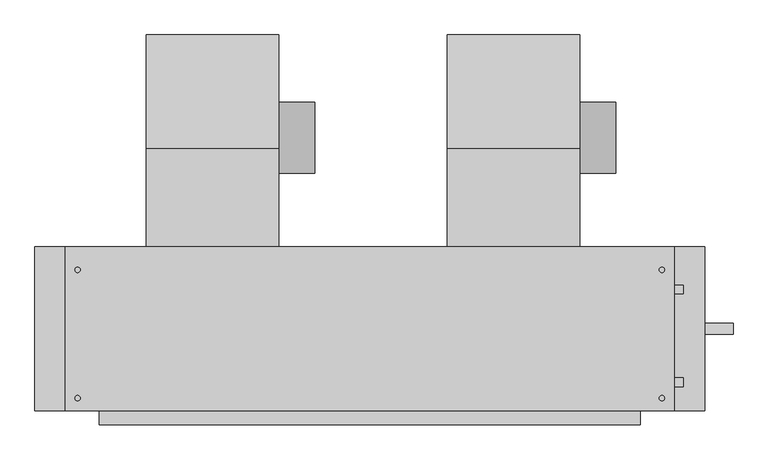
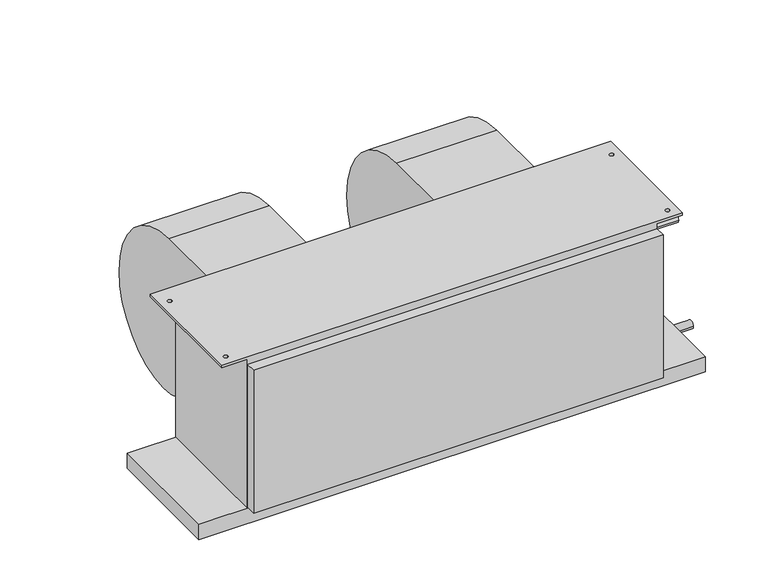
"""IFC4 building model written with IfcOpenShell, lengths in millimetres: proxy geometry, Concealed_High_Capacity_Horizontal_Fan_Coil_Unit_-_42DAA_-_CARRIER_-_2-Pipe_RH_2022 : Size 16 - 277v/60Hz/1Ph - 6 Row 12.0kW."""

from ifc_helpers import new_model, si_unit, point, frame, frame_2d, origin, place, context, project, spatial, polyline, circle_curve, trimmed, segment, composite_curve, outline, extrude, source, transform, mapped, element, save
from ifc_brep_helpers import plane_surface, cylinder_surface, revolved_surface, advanced_brep


def mechanical_equipment_f2d7e844(model_context):
    return source(origin(), model_context, "Body", "SolidModel", [
        extrude(outline(composite_curve([segment(trimmed(circle_curve(frame_2d((102.0007598, -206.8897468)), 63.5), [point((165.5007598, -206.8897468))], [point((38.5007598, -206.8897468))], False, "CARTESIAN"), True, "CONTINUOUS"), segment(trimmed(circle_curve(frame_2d((102.0007598, -206.8897468)), 63.5), [point((38.5007598, -206.8897468))], [point((165.5007598, -206.8897468))], False, "CARTESIAN"), True, "CONTINUOUS")], self_intersect=False)), frame((-9.525, 0.0, 0.0), z_axis=(1.0, 0.0, 0.0), x_axis=(0.0, 1.0, 0.0)), (0.0, 0.0, 1.0), 63.5),
        advanced_brep(
        [(-245.999, 285.5155957, -222.029602), (-245.999, 104.6226, -403.64664), (-245.999, -50.9016, -277.10638), (-245.999, -92.075, -277.10638), (-245.999, -92.075, -19.05), (-245.999, 83.0080093, -19.05), (-9.525, 285.5155957, -222.029602), (-9.525, 83.0080093, -19.05), (-9.525, -92.075, -19.05), (-9.525, -92.075, -277.10638), (-9.525, -50.9016, -277.10638), (-9.525, 104.622599, -403.6457839)],
        [
            (0, 1, circle_curve(frame((-245.999, 104.44226, -222.57258), z_axis=(-1.0, 0.0, 0.0), x_axis=(0.0, -1.0, 0.0)), 181.0741498)),
            (1, 2, circle_curve(frame((-245.999, 104.44226, -245.02364), z_axis=(-1.0, 0.0, 0.0), x_axis=(0.0, -1.0, 0.0)), 158.6222464)),
            (2, 3),
            (3, 4),
            (4, 5),
            (5, 0, circle_curve(frame((-245.999, 81.9912, -222.57258), z_axis=(-1.0, 0.0, 0.0), x_axis=(0.0, -1.0, 0.0)), 203.52512)),
            (6, 7, circle_curve(frame((-9.525, 81.9912, -222.57258), z_axis=(1.0, 0.0, 0.0), x_axis=(0.0, -1.0, 0.0)), 203.52512)),
            (7, 8),
            (8, 9),
            (9, 10),
            (10, 11, circle_curve(frame((-9.525, 104.44226, -245.02364), z_axis=(1.0, 0.0, 0.0), x_axis=(0.0, -1.0, 0.0)), 158.6222464)),
            (11, 6, circle_curve(frame((-9.525, 104.44226, -222.57258), z_axis=(1.0, 0.0, 0.0), x_axis=(0.0, -1.0, 0.0)), 181.0741498)),
            (0, 6),
            (11, 1),
            (10, 2),
            (9, 3),
            (8, 4),
            (7, 5),
        ],
        [
            plane_surface(frame((-245.999, -76.6318898, -222.57258), z_axis=(-1.0, 0.0, 0.0), x_axis=(0.0, 0.0, 1.0))),
            plane_surface(frame((-9.525, -76.6318898, -222.57258), z_axis=(1.0, 0.0, 0.0), x_axis=(0.0, 0.0, -1.0))),
            cylinder_surface(frame((-9.525, 104.44226, -222.57258), z_axis=(-1.0, 0.0, 0.0), x_axis=(0.0, -1.0, 0.0)), 181.0741498),
            cylinder_surface(frame((-9.525, 104.44226, -245.02364), z_axis=(-1.0, 0.0, 0.0), x_axis=(0.0, -1.0, 0.0)), 158.6222464),
            plane_surface(frame((-245.999, -50.9016, -277.10638), z_axis=(0.0, 0.0, -1.0), x_axis=(1.0, 0.0, 0.0))),
            plane_surface(frame((-245.999, -92.075, -277.10638), z_axis=(0.0, -1.0, 0.0), x_axis=(1.0, 0.0, 0.0))),
            plane_surface(frame((-245.999, -92.075, -19.05), z_axis=(0.0, 0.0, 1.0), x_axis=(1.0, 0.0, 0.0))),
            cylinder_surface(frame((-9.525, 81.9912, -222.57258), z_axis=(-1.0, 0.0, 0.0), x_axis=(0.0, -1.0, 0.0)), 203.52512),
        ],
        [
            (0, [[1, 2, 3, 4, 5, 6]]),
            (1, [[7, 8, 9, 10, 11, 12]]),
            (2, [[-1, 13, -12, 14]]),
            (3, [[-2, -14, -11, 15]]),
            (4, [[-3, -15, -10, 16]]),
            (5, [[-4, -16, -9, 17]]),
            (6, [[-5, -17, -8, 18]]),
            (7, [[-6, -18, -7, -13]]),
        ],
    ),
        extrude(outline(composite_curve([segment(trimmed(circle_curve(frame_2d((102.0007598, -206.8897468)), 63.5), [point((165.5007598, -206.8897468))], [point((38.5007598, -206.8897468))], False, "CARTESIAN"), True, "CONTINUOUS"), segment(trimmed(circle_curve(frame_2d((102.0007598, -206.8897468)), 63.5), [point((38.5007598, -206.8897468))], [point((165.5007598, -206.8897468))], False, "CARTESIAN"), True, "CONTINUOUS")], self_intersect=False)), frame((527.05, 0.0, 0.0), z_axis=(1.0, 0.0, 0.0), x_axis=(0.0, 1.0, 0.0)), (0.0, 0.0, 1.0), 63.5),
        advanced_brep(
        [(290.576, 285.5155957, -222.029602), (290.576, 104.6226, -403.64664), (290.576, -50.9016, -277.10638), (290.576, -92.075, -277.10638), (290.576, -92.075, -19.05), (290.576, 83.0080093, -19.05), (527.05, 285.5155957, -222.029602), (527.05, 83.0080093, -19.05), (527.05, -92.075, -19.05), (527.05, -92.075, -277.10638), (527.05, -50.9016, -277.10638), (527.05, 104.622599, -403.6457839)],
        [
            (0, 1, circle_curve(frame((290.576, 104.44226, -222.57258), z_axis=(-1.0, 0.0, 0.0), x_axis=(0.0, -1.0, 0.0)), 181.0741498)),
            (1, 2, circle_curve(frame((290.576, 104.44226, -245.02364), z_axis=(-1.0, 0.0, 0.0), x_axis=(0.0, -1.0, 0.0)), 158.6222464)),
            (2, 3),
            (3, 4),
            (4, 5),
            (5, 0, circle_curve(frame((290.576, 81.9912, -222.57258), z_axis=(-1.0, 0.0, 0.0), x_axis=(0.0, -1.0, 0.0)), 203.52512)),
            (6, 7, circle_curve(frame((527.05, 81.9912, -222.57258), z_axis=(1.0, 0.0, 0.0), x_axis=(0.0, -1.0, 0.0)), 203.52512)),
            (7, 8),
            (8, 9),
            (9, 10),
            (10, 11, circle_curve(frame((527.05, 104.44226, -245.02364), z_axis=(1.0, 0.0, 0.0), x_axis=(0.0, -1.0, 0.0)), 158.6222464)),
            (11, 6, circle_curve(frame((527.05, 104.44226, -222.57258), z_axis=(1.0, 0.0, 0.0), x_axis=(0.0, -1.0, 0.0)), 181.0741498)),
            (0, 6),
            (11, 1),
            (10, 2),
            (9, 3),
            (8, 4),
            (7, 5),
        ],
        [
            plane_surface(frame((290.576, -76.6318898, -222.57258), z_axis=(-1.0, 0.0, 0.0), x_axis=(0.0, 0.0, 1.0))),
            plane_surface(frame((527.05, -76.6318898, -222.57258), z_axis=(1.0, 0.0, 0.0), x_axis=(0.0, 0.0, -1.0))),
            cylinder_surface(frame((527.05, 104.44226, -222.57258), z_axis=(-1.0, 0.0, 0.0), x_axis=(0.0, -1.0, 0.0)), 181.0741498),
            cylinder_surface(frame((527.05, 104.44226, -245.02364), z_axis=(-1.0, 0.0, 0.0), x_axis=(0.0, -1.0, 0.0)), 158.6222464),
            plane_surface(frame((290.576, -50.9016, -277.10638), z_axis=(0.0, 0.0, -1.0), x_axis=(1.0, 0.0, 0.0))),
            plane_surface(frame((290.576, -92.075, -277.10638), z_axis=(0.0, -1.0, 0.0), x_axis=(1.0, 0.0, 0.0))),
            plane_surface(frame((290.576, -92.075, -19.05), z_axis=(0.0, 0.0, 1.0), x_axis=(1.0, 0.0, 0.0))),
            cylinder_surface(frame((527.05, 81.9912, -222.57258), z_axis=(-1.0, 0.0, 0.0), x_axis=(0.0, -1.0, 0.0)), 203.52512),
        ],
        [
            (0, [[1, 2, 3, 4, 5, 6]]),
            (1, [[7, 8, 9, 10, 11, 12]]),
            (2, [[-1, 13, -12, 14]]),
            (3, [[-2, -14, -11, 15]]),
            (4, [[-3, -15, -10, 16]]),
            (5, [[-4, -16, -9, 17]]),
            (6, [[-5, -17, -8, 18]]),
            (7, [[-6, -18, -7, -13]]),
        ],
    ),
        advanced_brep(
        [(695.325, -92.075, -6.35), (695.325, -384.175, -6.35), (635.0, -384.175, -6.35), (635.0, -92.075, -6.35), (668.3375, -133.35, -6.35), (677.8625, -133.35, -6.35), (668.3375, -361.95, -6.35), (677.8625, -361.95, -6.35), (-390.525, -92.075, -6.35), (-330.2, -92.075, -6.35), (-330.2, -384.175, -6.35), (-390.525, -384.175, -6.35), (-373.0625, -133.35, -6.35), (-363.5375, -133.35, -6.35), (-373.0625, -361.95, -6.35), (-363.5375, -361.95, -6.35), (695.325, -384.175, 0.0), (695.325, -92.075, 0.0), (-390.525, -92.075, 0.0), (-390.525, -384.175, 0.0), (-363.5375, -133.35, 0.0), (-373.0625, -133.35, 0.0), (-363.5375, -361.95, 0.0), (-373.0625, -361.95, 0.0), (677.8625, -133.35, 0.0), (668.3375, -133.35, 0.0), (677.8625, -361.95, 0.0), (668.3375, -361.95, 0.0), (635.0, -92.075, -377.825), (-330.2, -92.075, -377.825), (-330.2, -384.175, -377.825), (635.0, -384.175, -377.825)],
        [
            (0, 1),
            (1, 2),
            (2, 3),
            (3, 0),
            (4, 5, circle_curve(frame((673.1, -133.35, -6.35), z_axis=(0.0, 0.0, 1.0), x_axis=(1.0, 0.0, 0.0)), 4.7625)),
            (5, 4, circle_curve(frame((673.1, -133.35, -6.35), z_axis=(0.0, 0.0, 1.0), x_axis=(1.0, 0.0, 0.0)), 4.7625)),
            (6, 7, circle_curve(frame((673.1, -361.95, -6.35), z_axis=(0.0, 0.0, 1.0), x_axis=(1.0, 0.0, 0.0)), 4.7625)),
            (7, 6, circle_curve(frame((673.1, -361.95, -6.35), z_axis=(0.0, 0.0, 1.0), x_axis=(1.0, 0.0, 0.0)), 4.7625)),
            (8, 9),
            (9, 10),
            (10, 11),
            (11, 8),
            (12, 13, circle_curve(frame((-368.3, -133.35, -6.35), z_axis=(0.0, 0.0, 1.0), x_axis=(1.0, 0.0, 0.0)), 4.7625)),
            (13, 12, circle_curve(frame((-368.3, -133.35, -6.35), z_axis=(0.0, 0.0, 1.0), x_axis=(1.0, 0.0, 0.0)), 4.7625)),
            (14, 15, circle_curve(frame((-368.3, -361.95, -6.35), z_axis=(0.0, 0.0, 1.0), x_axis=(1.0, 0.0, 0.0)), 4.7625)),
            (15, 14, circle_curve(frame((-368.3, -361.95, -6.35), z_axis=(0.0, 0.0, 1.0), x_axis=(1.0, 0.0, 0.0)), 4.7625)),
            (16, 17),
            (17, 18),
            (18, 19),
            (19, 16),
            (20, 21, circle_curve(frame((-368.3, -133.35, 0.0), z_axis=(0.0, 0.0, -1.0), x_axis=(1.0, 0.0, 0.0)), 4.7625)),
            (21, 20, circle_curve(frame((-368.3, -133.35, 0.0), z_axis=(0.0, 0.0, -1.0), x_axis=(1.0, 0.0, 0.0)), 4.7625)),
            (22, 23, circle_curve(frame((-368.3, -361.95, 0.0), z_axis=(0.0, 0.0, -1.0), x_axis=(1.0, 0.0, 0.0)), 4.7625)),
            (23, 22, circle_curve(frame((-368.3, -361.95, 0.0), z_axis=(0.0, 0.0, -1.0), x_axis=(1.0, 0.0, 0.0)), 4.7625)),
            (24, 25, circle_curve(frame((673.1, -133.35, 0.0), z_axis=(0.0, 0.0, -1.0), x_axis=(1.0, 0.0, 0.0)), 4.7625)),
            (25, 24, circle_curve(frame((673.1, -133.35, 0.0), z_axis=(0.0, 0.0, -1.0), x_axis=(1.0, 0.0, 0.0)), 4.7625)),
            (26, 27, circle_curve(frame((673.1, -361.95, 0.0), z_axis=(0.0, 0.0, -1.0), x_axis=(1.0, 0.0, 0.0)), 4.7625)),
            (27, 26, circle_curve(frame((673.1, -361.95, 0.0), z_axis=(0.0, 0.0, -1.0), x_axis=(1.0, 0.0, 0.0)), 4.7625)),
            (3, 28),
            (28, 29),
            (29, 9),
            (8, 18),
            (17, 0),
            (1, 16),
            (19, 11),
            (10, 30),
            (30, 31),
            (31, 2),
            (28, 31),
            (30, 29),
            (20, 13),
            (12, 21),
            (22, 15),
            (14, 23),
            (24, 5),
            (4, 25),
            (26, 7),
            (6, 27),
        ],
        [
            plane_surface(frame((635.0, -92.075, -6.35), z_axis=(0.0, 0.0, -1.0), x_axis=(1.0, 0.0, 0.0))),
            plane_surface(frame((635.0, -92.075, 0.0), z_axis=(0.0, 0.0, 1.0), x_axis=(-1.0, 0.0, 0.0))),
            plane_surface(frame((695.325, -92.075, 0.0), z_axis=(0.0, 1.0, 0.0), x_axis=(0.0, 0.0, -1.0))),
            plane_surface(frame((635.0, -384.175, 0.0), z_axis=(0.0, -1.0, 0.0), x_axis=(0.0, 0.0, -1.0))),
            plane_surface(frame((695.325, -384.175, 0.0), z_axis=(1.0, 0.0, 0.0), x_axis=(0.0, 0.0, -1.0))),
            plane_surface(frame((-390.525, -92.075, 0.0), z_axis=(-1.0, 0.0, 0.0), x_axis=(0.0, 0.0, -1.0))),
            plane_surface(frame((-330.2, -92.075, -377.825), z_axis=(0.0, 0.0, -1.0), x_axis=(1.0, 0.0, 0.0))),
            plane_surface(frame((-330.2, -92.075, 0.0), z_axis=(-1.0, 0.0, 0.0), x_axis=(0.0, 0.0, -1.0))),
            plane_surface(frame((635.0, -384.175, 0.0), z_axis=(1.0, 0.0, 0.0), x_axis=(0.0, 0.0, -1.0))),
            revolved_surface(polyline([(-363.5375, -133.35, 0.0), (-363.5375, -133.35, -6.35)]), (-368.3, -133.35, -6.35), (0.0, 0.0, 1.0)),
            revolved_surface(polyline([(-363.5375, -361.95, 0.0), (-363.5375, -361.95, -6.35)]), (-368.3, -361.95, 0.0), (0.0, 0.0, 1.0)),
            revolved_surface(polyline([(677.8625000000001, -133.35, 0.0), (677.8625000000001, -133.35, -6.35)]), (673.1, -133.35, 0.0), (0.0, 0.0, 1.0)),
            revolved_surface(polyline([(677.8625000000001, -361.95, 0.0), (677.8625000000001, -361.95, -6.35)]), (673.1, -361.95, 0.0), (0.0, 0.0, 1.0)),
        ],
        [
            (0, [[1, 2, 3, 4], [5, 6], [7, 8]]),
            (0, [[9, 10, 11, 12], [13, 14], [15, 16]]),
            (1, [[17, 18, 19, 20], [21, 22], [23, 24], [25, 26], [27, 28]]),
            (2, [[-4, 29, 30, 31, -9, 32, -18, 33]]),
            (3, [[-2, 34, -20, 35, -11, 36, 37, 38]]),
            (4, [[-1, -33, -17, -34]]),
            (5, [[-12, -35, -19, -32]]),
            (6, [[39, -37, 40, -30]]),
            (7, [[-40, -36, -10, -31]]),
            (8, [[-39, -29, -3, -38]]),
            (9, [[41, -13, 42, -21]]),
            (9, [[-41, -22, -42, -14]]),
            (10, [[43, -15, 44, -23]]),
            (10, [[-43, -24, -44, -16]]),
            (11, [[45, -5, 46, -25]]),
            (11, [[-45, -26, -46, -6]]),
            (12, [[47, -7, 48, -27]]),
            (12, [[-47, -28, -48, -8]]),
        ],
    ),
        extrude(outline(composite_curve([segment(trimmed(circle_curve(frame_2d((-238.125, -403.225)), 9.525), [point((-228.6, -403.225))], [point((-247.65, -403.225))], False, "CARTESIAN"), True, "CONTINUOUS"), segment(trimmed(circle_curve(frame_2d((-238.125, -403.225)), 9.525), [point((-247.65, -403.225))], [point((-228.6, -403.225))], False, "CARTESIAN"), True, "CONTINUOUS")], self_intersect=False)), frame((749.3, 0.0, 0.0), z_axis=(1.0, 0.0, 0.0), x_axis=(0.0, 1.0, 0.0)), (0.0, 0.0, 1.0), 50.8),
        extrude(outline(composite_curve([segment(trimmed(circle_curve(frame_2d((-333.375, -50.8)), 7.9375), [point((-325.4375, -50.8))], [point((-341.3125, -50.8))], False, "CARTESIAN"), True, "CONTINUOUS"), segment(trimmed(circle_curve(frame_2d((-333.375, -50.8)), 7.9375), [point((-341.3125, -50.8))], [point((-325.4375, -50.8))], False, "CARTESIAN"), True, "CONTINUOUS")], self_intersect=False)), frame((635.0, 0.0, 0.0), z_axis=(1.0, 0.0, 0.0), x_axis=(0.0, 1.0, 0.0)), (0.0, 0.0, 1.0), 76.2),
        extrude(outline(composite_curve([segment(trimmed(circle_curve(frame_2d((-168.275, -327.025)), 7.9375), [point((-160.3375, -327.025))], [point((-176.2125, -327.025))], False, "CARTESIAN"), True, "CONTINUOUS"), segment(trimmed(circle_curve(frame_2d((-168.275, -327.025)), 7.9375), [point((-176.2125, -327.025))], [point((-160.3375, -327.025))], False, "CARTESIAN"), True, "CONTINUOUS")], self_intersect=False)), frame((635.0, 0.0, 0.0), z_axis=(1.0, 0.0, 0.0), x_axis=(0.0, 1.0, 0.0)), (0.0, 0.0, 1.0), 76.2),
        extrude(outline(polyline([(635.0, -409.575), (-330.2, -409.575), (-330.2, -384.175), (635.0, -384.175), (635.0, -409.575)])), frame((0.0, 0.0, -374.65), z_axis=(0.0, 0.0, 1.0), x_axis=(1.0, 0.0, 0.0)), (0.0, 0.0, 1.0), 355.6),
        extrude(outline(polyline([(749.3, -92.075), (749.3, -384.175), (-444.5, -384.175), (-444.5, -92.075), (749.3, -92.075)])), frame((0.0, 0.0, -415.925), z_axis=(0.0, 0.0, 1.0), x_axis=(1.0, 0.0, 0.0)), (0.0, 0.0, 1.0), 38.1),
    ])


if __name__ == "__main__":
    model = new_model("IFC4")
    model_context = context("Model", 3, world=origin())
    ifc_project = project(units=[si_unit("LENGTHUNIT", "METRE", prefix="MILLI")], contexts=[model_context])
    site = spatial("IfcSite", under=ifc_project)
    building = spatial("IfcBuilding", under=site)
    placement = place(None, origin())
    mechanical_equipment_shape = mechanical_equipment_f2d7e844(model_context)
    element("IfcBuildingElementProxy", 1, Name="Concealed_High_Capacity_Horizontal_Fan_Coil_Unit_-_42DAA_-_CARRIER_-_2-Pipe_RH_2022 : Size 16 - 277v/60Hz/1Ph - 6 Row 12.0kW", ObjectType="Concealed_High_Capacity_Horizontal_Fan_Coil_Unit_-_42DAA_-_CARRIER_-_2-Pipe_RH_2022 : Size 16 - 277v/60Hz/1Ph - 6 Row 12.0kW", at=placement, inside=building, context=model_context, shape_type="MappedRepresentation", body=[
        mapped(mechanical_equipment_shape, transform((0.0, 0.0, 0.0), x_axis=(1.0, 0.0, 0.0), y_axis=(0.0, 1.0, 0.0), z_axis=(0.0, 0.0, 1.0))),
    ])
    save(model, "model.ifc")
